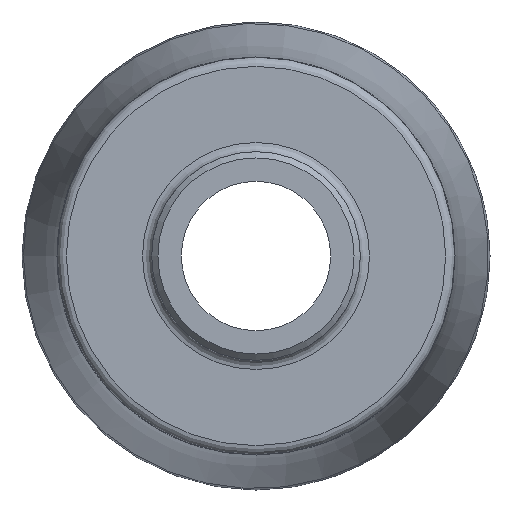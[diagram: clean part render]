
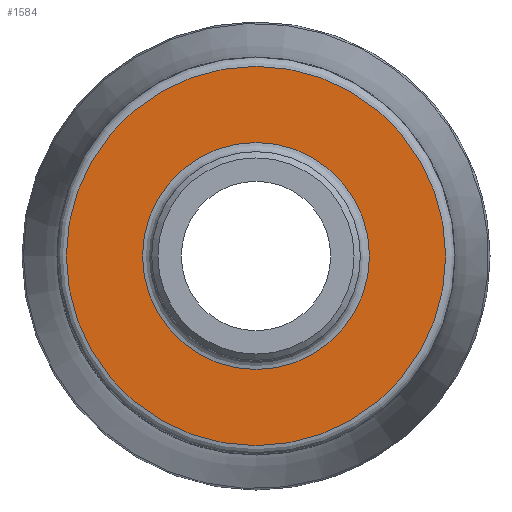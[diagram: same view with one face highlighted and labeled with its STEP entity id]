
A CAD part, left-side view. The second image highlights one B-rep face of the part: STEP entity #1584.
In plain terms, the highlighted planar face has unit normal (-1, 0, 0).
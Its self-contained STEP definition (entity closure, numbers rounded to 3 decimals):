
#262=PLANE('',#1742);
#356=FACE_BOUND('',#504,.T.);
#392=FACE_OUTER_BOUND('',#503,.T.);
#503=EDGE_LOOP('',(#1230));
#504=EDGE_LOOP('',(#1231));
#632=CIRCLE('',#1741,11.403);
#633=CIRCLE('',#1743,19.05);
#742=VERTEX_POINT('',#2837);
#743=VERTEX_POINT('',#2840);
#920=EDGE_CURVE('',#742,#742,#632,.T.);
#921=EDGE_CURVE('',#743,#743,#633,.T.);
#1230=ORIENTED_EDGE('',*,*,#921,.F.);
#1231=ORIENTED_EDGE('',*,*,#920,.F.);
#1584=ADVANCED_FACE('',(#392,#356),#262,.T.);
#1741=AXIS2_PLACEMENT_3D('',#2838,#2035,#2036);
#1742=AXIS2_PLACEMENT_3D('',#2839,#2037,#2038);
#1743=AXIS2_PLACEMENT_3D('',#2841,#2039,#2040);
#2035=DIRECTION('center_axis',(-1.,0.,0.));
#2036=DIRECTION('ref_axis',(0.,-1.,0.));
#2037=DIRECTION('center_axis',(-1.,0.,0.));
#2038=DIRECTION('ref_axis',(0.,0.,1.));
#2039=DIRECTION('center_axis',(1.,0.,0.));
#2040=DIRECTION('ref_axis',(0.,-1.,0.));
#2837=CARTESIAN_POINT('',(16.,11.403,0.));
#2838=CARTESIAN_POINT('Origin',(16.,0.,0.));
#2839=CARTESIAN_POINT('Origin',(16.,19.975,0.));
#2840=CARTESIAN_POINT('',(16.,19.05,0.));
#2841=CARTESIAN_POINT('Origin',(16.,0.,0.));
